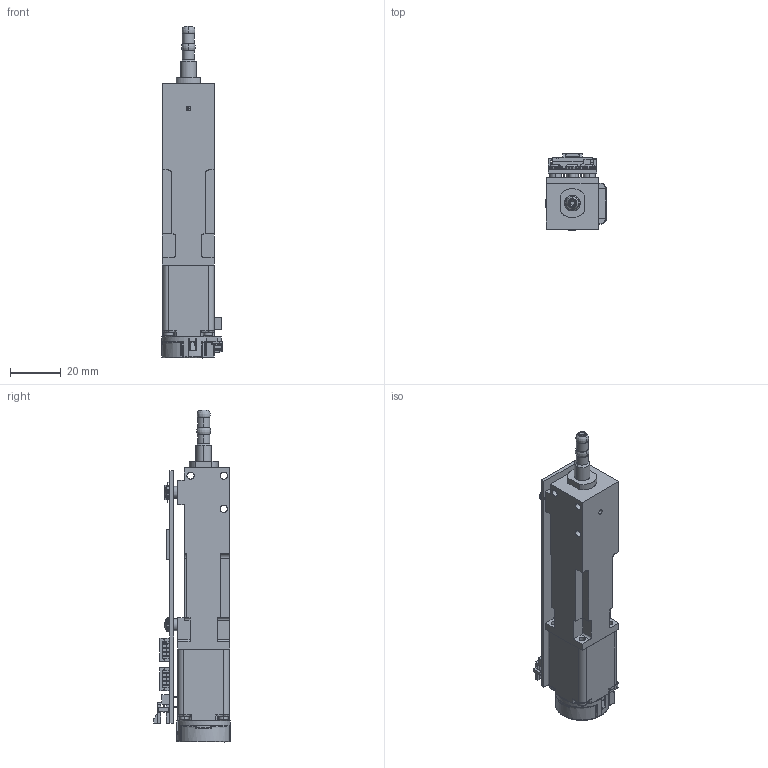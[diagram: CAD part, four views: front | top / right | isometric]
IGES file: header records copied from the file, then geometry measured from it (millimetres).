
Start section: SolidWorks IGES file using analytic representation for surfaces
Global section: file name: C:\SWPDM\GDT\TriContinent\Production Docs\MOD\Assembly Web\MOD91021\MOD91021for iges.IGS; native system: SolidWorks 2017; preprocessor: SolidWorks 2017; author: raw2042; date: 180312.111545; units: inch
Bounding box: 23.83 x 30.11 x 130.34 mm (x, y, z)
Surface area: 26051 mm2 (no closed solid volume)
Topology: 0 solids, 0 shells, 1643 faces, 17722 edges, 17700 vertices
Faces by surface type: bspline 993, revolution 650
